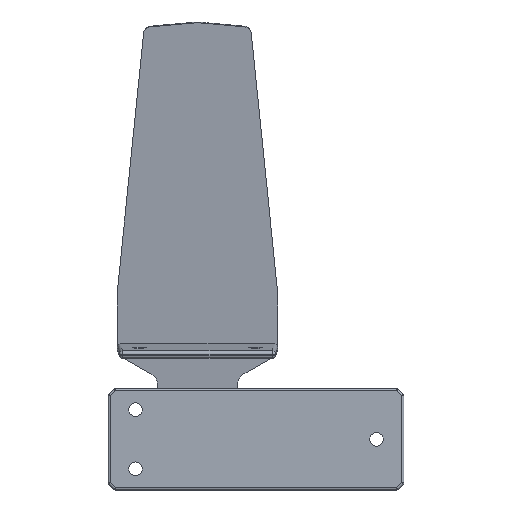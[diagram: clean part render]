
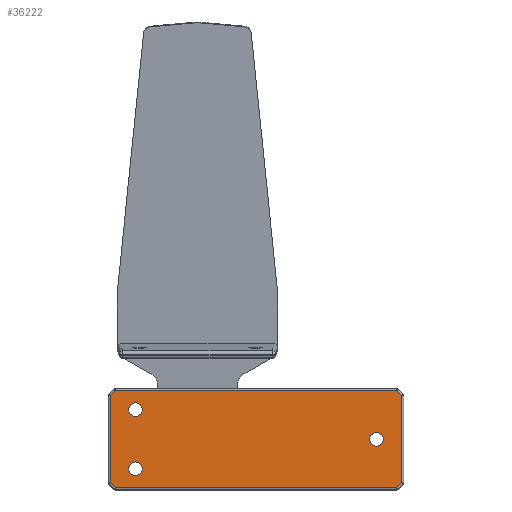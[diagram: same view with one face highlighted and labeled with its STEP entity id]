
A CAD part, front view. The second image highlights one B-rep face of the part: STEP entity #36222.
In plain terms, the highlighted planar face has unit normal (0, -1, 0).
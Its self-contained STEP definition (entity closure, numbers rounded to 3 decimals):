
#12865 = CARTESIAN_POINT ( 'NONE',  ( -50., -52., 17.25 ) ) ;
#13903 = CARTESIAN_POINT ( 'NONE',  ( -50., -52., 10.75 ) ) ;
#13991 = CARTESIAN_POINT ( 'NONE',  ( -50., -52., -17.25 ) ) ;
#14017 = CARTESIAN_POINT ( 'NONE',  ( -50., -52., -10.75 ) ) ;
#14034 = CARTESIAN_POINT ( 'NONE',  ( 64., -52., 3.25 ) ) ;
#14054 = CARTESIAN_POINT ( 'NONE',  ( 64., -52., -3.25 ) ) ;
#15581 = CARTESIAN_POINT ( 'NONE',  ( -50., -52., 14. ) ) ;
#15610 = DIRECTION ( 'NONE',  ( 0., 1., 0. ) ) ;
#15659 = DIRECTION ( 'NONE',  ( 0., 0., 1. ) ) ;
#18084 = CARTESIAN_POINT ( 'NONE',  ( -59.586, -52., -23. ) ) ;
#18112 = CARTESIAN_POINT ( 'NONE',  ( 73.586, -52., 23. ) ) ;
#18120 = CARTESIAN_POINT ( 'NONE',  ( -62., -52., 20.586 ) ) ;
#18150 = CARTESIAN_POINT ( 'NONE',  ( -59.586, -52., 23. ) ) ;
#18200 = CARTESIAN_POINT ( 'NONE',  ( 76., -52., -20.586 ) ) ;
#18248 = CARTESIAN_POINT ( 'NONE',  ( -62., -52., -20.586 ) ) ;
#18278 = CARTESIAN_POINT ( 'NONE',  ( 73.586, -52., -23. ) ) ;
#18308 = CARTESIAN_POINT ( 'NONE',  ( 76., -52., 20.586 ) ) ;
#22098 = CARTESIAN_POINT ( 'NONE',  ( -50., -52., -14. ) ) ;
#22115 = DIRECTION ( 'NONE',  ( 0., 1., 0. ) ) ;
#22116 = DIRECTION ( 'NONE',  ( 0., 0., 1. ) ) ;
#22123 = CARTESIAN_POINT ( 'NONE',  ( 64., -52., 0. ) ) ;
#22157 = DIRECTION ( 'NONE',  ( 0., 0., 1. ) ) ;
#22167 = DIRECTION ( 'NONE',  ( 0., 1., 0. ) ) ;
#23229 = AXIS2_PLACEMENT_3D ( 'NONE', #23393, #23415, #23381 ) ;
#23380 = PLANE ( 'NONE',  #23229 ) ;
#23381 = DIRECTION ( 'NONE',  ( 0., 0., -1. ) ) ;
#23383 = FACE_OUTER_BOUND ( 'NONE', #46928, .T. ) ;
#23392 = FACE_BOUND ( 'NONE', #47000, .T. ) ;
#23393 = CARTESIAN_POINT ( 'NONE',  ( 77., -52., -64.883 ) ) ;
#23403 = FACE_BOUND ( 'NONE', #47046, .T. ) ;
#23415 = DIRECTION ( 'NONE',  ( 0., -1., 0. ) ) ;
#23427 = FACE_BOUND ( 'NONE', #46999, .T. ) ;
#26465 = AXIS2_PLACEMENT_3D ( 'NONE', #22123, #22167, #22157 ) ;
#26478 = AXIS2_PLACEMENT_3D ( 'NONE', #22098, #22115, #22116 ) ;
#26510 = CIRCLE ( 'NONE', #26478, 3.25 ) ;
#26553 = CIRCLE ( 'NONE', #26465, 3.25 ) ;
#27730 = VECTOR ( 'NONE', #29083, 1000. ) ;
#27741 = VECTOR ( 'NONE', #27980, 1000. ) ;
#27774 = VECTOR ( 'NONE', #29072, 1000. ) ;
#27776 = VECTOR ( 'NONE', #29013, 1000. ) ;
#27779 = VECTOR ( 'NONE', #29188, 1000. ) ;
#27793 = VECTOR ( 'NONE', #29203, 1000. ) ;
#27815 = CIRCLE ( 'NONE', #27841, 3.25 ) ;
#27818 = VECTOR ( 'NONE', #34431, 1000. ) ;
#27828 = CIRCLE ( 'NONE', #27834, 3.25 ) ;
#27834 = AXIS2_PLACEMENT_3D ( 'NONE', #34673, #34661, #34702 ) ;
#27840 = VECTOR ( 'NONE', #31425, 1000. ) ;
#27841 = AXIS2_PLACEMENT_3D ( 'NONE', #34384, #34386, #34385 ) ;
#27874 = CIRCLE ( 'NONE', #27883, 3.25 ) ;
#27883 = AXIS2_PLACEMENT_3D ( 'NONE', #34725, #34732, #34716 ) ;
#27980 = DIRECTION ( 'NONE',  ( 0., 0., -1. ) ) ;
#29013 = DIRECTION ( 'NONE',  ( 1., 0., 0. ) ) ;
#29029 = LINE ( 'NONE', #29046, #27776 ) ;
#29035 = LINE ( 'NONE', #29049, #27741 ) ;
#29046 = CARTESIAN_POINT ( 'NONE',  ( 77., -52., -23. ) ) ;
#29049 = CARTESIAN_POINT ( 'NONE',  ( -62., -52., -64.883 ) ) ;
#29068 = LINE ( 'NONE', #29076, #27774 ) ;
#29072 = DIRECTION ( 'NONE',  ( -0.707, 0., 0.707 ) ) ;
#29076 = CARTESIAN_POINT ( 'NONE',  ( 76., -52., 20.586 ) ) ;
#29078 = CARTESIAN_POINT ( 'NONE',  ( 76., -52., -64.883 ) ) ;
#29083 = DIRECTION ( 'NONE',  ( 0., 0., 1. ) ) ;
#29098 = LINE ( 'NONE', #29078, #27730 ) ;
#29153 = LINE ( 'NONE', #29165, #27779 ) ;
#29165 = CARTESIAN_POINT ( 'NONE',  ( -62., -52., -20.586 ) ) ;
#29188 = DIRECTION ( 'NONE',  ( 0.707, 0., -0.707 ) ) ;
#29193 = LINE ( 'NONE', #29240, #27793 ) ;
#29203 = DIRECTION ( 'NONE',  ( -0.707, 0., -0.707 ) ) ;
#29240 = CARTESIAN_POINT ( 'NONE',  ( -59.586, -52., 23. ) ) ;
#31354 = LINE ( 'NONE', #31385, #27840 ) ;
#31385 = CARTESIAN_POINT ( 'NONE',  ( 73.586, -52., -23. ) ) ;
#31425 = DIRECTION ( 'NONE',  ( 0.707, 0., 0.707 ) ) ;
#34339 = LINE ( 'NONE', #34370, #27818 ) ;
#34370 = CARTESIAN_POINT ( 'NONE',  ( 77., -52., 23. ) ) ;
#34384 = CARTESIAN_POINT ( 'NONE',  ( 64., -52., 0. ) ) ;
#34385 = DIRECTION ( 'NONE',  ( 0., 0., 1. ) ) ;
#34386 = DIRECTION ( 'NONE',  ( 0., 1., 0. ) ) ;
#34431 = DIRECTION ( 'NONE',  ( -1., 0., 0. ) ) ;
#34661 = DIRECTION ( 'NONE',  ( 0., 1., 0. ) ) ;
#34673 = CARTESIAN_POINT ( 'NONE',  ( -50., -52., -14. ) ) ;
#34702 = DIRECTION ( 'NONE',  ( 0., 0., 1. ) ) ;
#34716 = DIRECTION ( 'NONE',  ( 0., 0., 1. ) ) ;
#34725 = CARTESIAN_POINT ( 'NONE',  ( -50., -52., 14. ) ) ;
#34732 = DIRECTION ( 'NONE',  ( 0., 1., 0. ) ) ;
#36028 = EDGE_CURVE ( 'NONE', #44744, #44893, #50727, .T. ) ;
#36044 = EDGE_CURVE ( 'NONE', #44795, #44847, #26510, .T. ) ;
#36057 = EDGE_CURVE ( 'NONE', #44856, #44854, #26553, .T. ) ;
#36222 = ADVANCED_FACE ( 'NONE', ( #23403, #23392, #23383, #23427 ), #23380, .T. ) ;
#40201 = EDGE_CURVE ( 'NONE', #45001, #45049, #29029, .T. ) ;
#40211 = EDGE_CURVE ( 'NONE', #44993, #45014, #29035, .T. ) ;
#40227 = EDGE_CURVE ( 'NONE', #45054, #45119, #29098, .T. ) ;
#40228 = EDGE_CURVE ( 'NONE', #45119, #45002, #29068, .T. ) ;
#40247 = EDGE_CURVE ( 'NONE', #45014, #45001, #29153, .T. ) ;
#40265 = EDGE_CURVE ( 'NONE', #44996, #44993, #29193, .T. ) ;
#40286 = EDGE_CURVE ( 'NONE', #45049, #45054, #31354, .T. ) ;
#40296 = EDGE_CURVE ( 'NONE', #44854, #44856, #27815, .T. ) ;
#40299 = EDGE_CURVE ( 'NONE', #45002, #44996, #34339, .T. ) ;
#40317 = EDGE_CURVE ( 'NONE', #44847, #44795, #27828, .T. ) ;
#40328 = EDGE_CURVE ( 'NONE', #44893, #44744, #27874, .T. ) ;
#40717 = ORIENTED_EDGE ( 'NONE', *, *, #40247, .T. ) ;
#40718 = ORIENTED_EDGE ( 'NONE', *, *, #40211, .T. ) ;
#40719 = ORIENTED_EDGE ( 'NONE', *, *, #36028, .T. ) ;
#40738 = ORIENTED_EDGE ( 'NONE', *, *, #40201, .T. ) ;
#40744 = ORIENTED_EDGE ( 'NONE', *, *, #40286, .T. ) ;
#40747 = ORIENTED_EDGE ( 'NONE', *, *, #40317, .T. ) ;
#40748 = ORIENTED_EDGE ( 'NONE', *, *, #40227, .T. ) ;
#40762 = ORIENTED_EDGE ( 'NONE', *, *, #40228, .T. ) ;
#40763 = ORIENTED_EDGE ( 'NONE', *, *, #40296, .T. ) ;
#40786 = ORIENTED_EDGE ( 'NONE', *, *, #40299, .T. ) ;
#40790 = ORIENTED_EDGE ( 'NONE', *, *, #36057, .T. ) ;
#40815 = ORIENTED_EDGE ( 'NONE', *, *, #40328, .T. ) ;
#40829 = ORIENTED_EDGE ( 'NONE', *, *, #36044, .T. ) ;
#40833 = ORIENTED_EDGE ( 'NONE', *, *, #40265, .T. ) ;
#44744 = VERTEX_POINT ( 'NONE', #13903 ) ;
#44795 = VERTEX_POINT ( 'NONE', #13991 ) ;
#44847 = VERTEX_POINT ( 'NONE', #14017 ) ;
#44854 = VERTEX_POINT ( 'NONE', #14034 ) ;
#44856 = VERTEX_POINT ( 'NONE', #14054 ) ;
#44893 = VERTEX_POINT ( 'NONE', #12865 ) ;
#44993 = VERTEX_POINT ( 'NONE', #18120 ) ;
#44996 = VERTEX_POINT ( 'NONE', #18150 ) ;
#45001 = VERTEX_POINT ( 'NONE', #18084 ) ;
#45002 = VERTEX_POINT ( 'NONE', #18112 ) ;
#45014 = VERTEX_POINT ( 'NONE', #18248 ) ;
#45049 = VERTEX_POINT ( 'NONE', #18278 ) ;
#45054 = VERTEX_POINT ( 'NONE', #18200 ) ;
#45119 = VERTEX_POINT ( 'NONE', #18308 ) ;
#46928 = EDGE_LOOP ( 'NONE', ( #40833, #40718, #40717, #40738, #40744, #40748, #40762, #40786 ) ) ;
#46999 = EDGE_LOOP ( 'NONE', ( #40763, #40790 ) ) ;
#47000 = EDGE_LOOP ( 'NONE', ( #40815, #40719 ) ) ;
#47046 = EDGE_LOOP ( 'NONE', ( #40747, #40829 ) ) ;
#50727 = CIRCLE ( 'NONE', #50740, 3.25 ) ;
#50740 = AXIS2_PLACEMENT_3D ( 'NONE', #15581, #15610, #15659 ) ;
